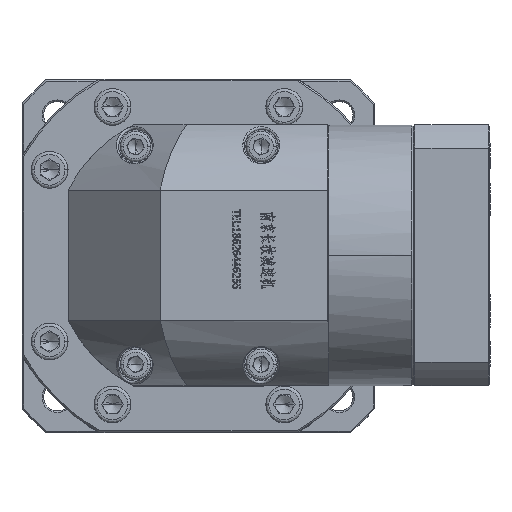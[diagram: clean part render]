
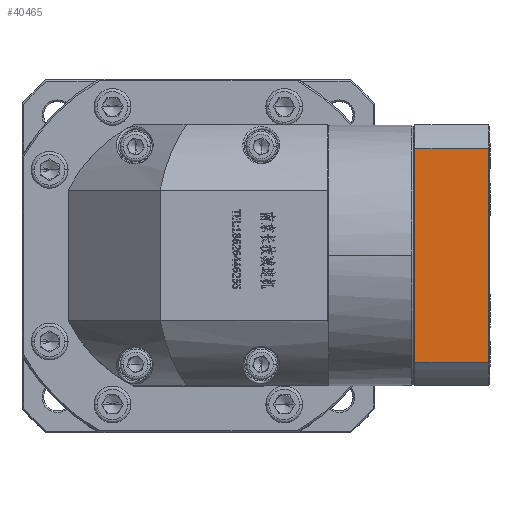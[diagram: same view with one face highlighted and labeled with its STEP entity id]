
A CAD part, top view. The second image highlights one B-rep face of the part: STEP entity #40465.
In plain terms, the highlighted planar face has unit normal (0, 0, 1).
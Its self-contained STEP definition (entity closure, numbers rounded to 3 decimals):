
#13498 = ORIENTED_EDGE ( 'NONE', *, *, #45496, .F. ) ;
#24095 = CARTESIAN_POINT ( 'NONE',  ( 125.292, 111.649, 53.337 ) ) ;
#25433 = CARTESIAN_POINT ( 'NONE',  ( 125.292, 111.649, 53.337 ) ) ;
#26915 = CARTESIAN_POINT ( 'NONE',  ( 125.292, 181.471, 53.337 ) ) ;
#28398 = VECTOR ( 'NONE', #166255, 1000. ) ;
#29157 = ORIENTED_EDGE ( 'NONE', *, *, #56957, .F. ) ;
#39584 = CARTESIAN_POINT ( 'NONE',  ( 124.792, 111.649, 53.337 ) ) ;
#39777 = DIRECTION ( 'NONE',  ( -1., 0., 0. ) ) ;
#40465 = ADVANCED_FACE ( 'NONE', ( #134604 ), #152681, .F. ) ;
#45496 = EDGE_CURVE ( 'NONE', #120678, #171427, #96679, .T. ) ;
#45844 = CARTESIAN_POINT ( 'NONE',  ( 100.792, 181.471, 53.337 ) ) ;
#46008 = ORIENTED_EDGE ( 'NONE', *, *, #53673, .T. ) ;
#47280 = LINE ( 'NONE', #102329, #118381 ) ;
#53019 = VECTOR ( 'NONE', #53780, 1000. ) ;
#53673 = EDGE_CURVE ( 'NONE', #120678, #143502, #47280, .T. ) ;
#53780 = DIRECTION ( 'NONE',  ( 0., -1., 0. ) ) ;
#56957 = EDGE_CURVE ( 'NONE', #171427, #93099, #128503, .T. ) ;
#66143 = LINE ( 'NONE', #24095, #28398 ) ;
#85454 = AXIS2_PLACEMENT_3D ( 'NONE', #25433, #124755, #39777 ) ;
#86285 = DIRECTION ( 'NONE',  ( 0., -1., 0. ) ) ;
#92718 = EDGE_CURVE ( 'NONE', #93099, #143502, #66143, .T. ) ;
#93099 = VERTEX_POINT ( 'NONE', #103444 ) ;
#96679 = LINE ( 'NONE', #26915, #172210 ) ;
#99172 = CARTESIAN_POINT ( 'NONE',  ( 124.792, 181.471, 53.337 ) ) ;
#102329 = CARTESIAN_POINT ( 'NONE',  ( 100.792, 111.649, 53.337 ) ) ;
#103444 = CARTESIAN_POINT ( 'NONE',  ( 124.792, 111.649, 53.337 ) ) ;
#118381 = VECTOR ( 'NONE', #86285, 1000. ) ;
#120678 = VERTEX_POINT ( 'NONE', #45844 ) ;
#124755 = DIRECTION ( 'NONE',  ( 0., 0., -1. ) ) ;
#128503 = LINE ( 'NONE', #39584, #53019 ) ;
#134604 = FACE_OUTER_BOUND ( 'NONE', #144446, .T. ) ;
#143502 = VERTEX_POINT ( 'NONE', #147090 ) ;
#144446 = EDGE_LOOP ( 'NONE', ( #29157, #13498, #46008, #171140 ) ) ;
#147090 = CARTESIAN_POINT ( 'NONE',  ( 100.792, 111.649, 53.337 ) ) ;
#152681 = PLANE ( 'NONE',  #85454 ) ;
#153538 = DIRECTION ( 'NONE',  ( 1., 0., 0. ) ) ;
#166255 = DIRECTION ( 'NONE',  ( -1., 0., 0. ) ) ;
#171140 = ORIENTED_EDGE ( 'NONE', *, *, #92718, .F. ) ;
#171427 = VERTEX_POINT ( 'NONE', #99172 ) ;
#172210 = VECTOR ( 'NONE', #153538, 1000. ) ;
